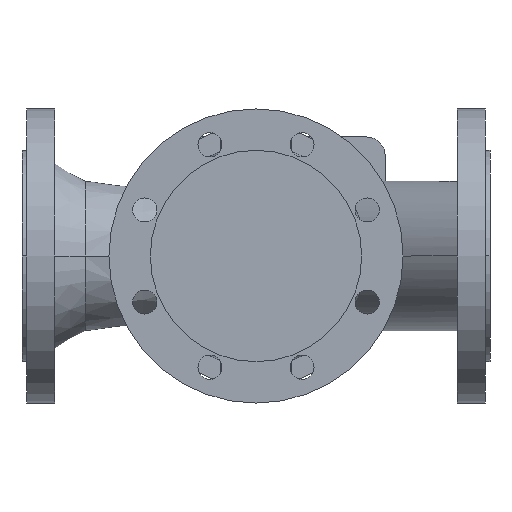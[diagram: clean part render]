
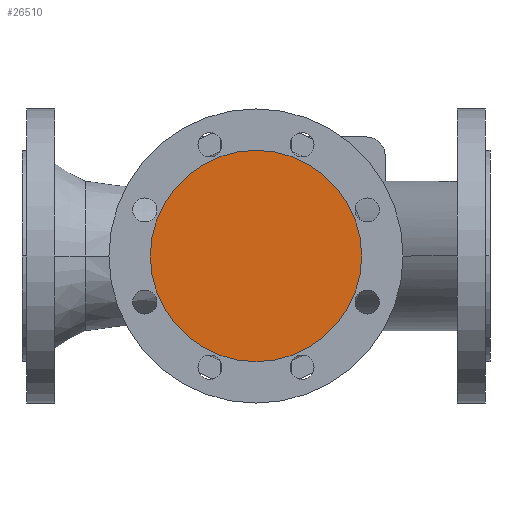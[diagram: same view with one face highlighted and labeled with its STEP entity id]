
A CAD part, front view. The second image highlights one B-rep face of the part: STEP entity #26510.
In plain terms, the highlighted planar face has unit normal (0, -1, 0).
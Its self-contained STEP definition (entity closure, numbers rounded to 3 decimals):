
#3290=CARTESIAN_POINT('',(254.,-150.,0.));
#3300=VERTEX_POINT('',#3290);
#3460=CARTESIAN_POINT('',(96.,-150.,0.));
#3470=VERTEX_POINT('',#3460);
#3500=CARTESIAN_POINT('',(175.,-150.,0.));
#3510=DIRECTION('',(0.,1.,0.));
#3520=DIRECTION('',(1.,0.,0.));
#3530=AXIS2_PLACEMENT_3D('',#3500,#3510,#3520);
#3540=CIRCLE('',#3530,79.);
#3550=EDGE_CURVE('',#3300,#3470,#3540,.T.);
#26410=CARTESIAN_POINT('',(214.5,-150.,0.));
#26420=DIRECTION('',(0.,-1.,0.));
#26430=DIRECTION('',(-1.,0.,0.));
#26440=AXIS2_PLACEMENT_3D('',#26410,#26420,#26430);
#26450=PLANE('',#26440);
#26460=EDGE_CURVE('',#3470,#3300,#3540,.T.);
#26470=ORIENTED_EDGE('',*,*,#26460,.F.);
#26480=ORIENTED_EDGE('',*,*,#3550,.F.);
#26490=EDGE_LOOP('',(#26480,#26470));
#26500=FACE_OUTER_BOUND('',#26490,.T.);
#26510=ADVANCED_FACE('',(#26500),#26450,.T.);
